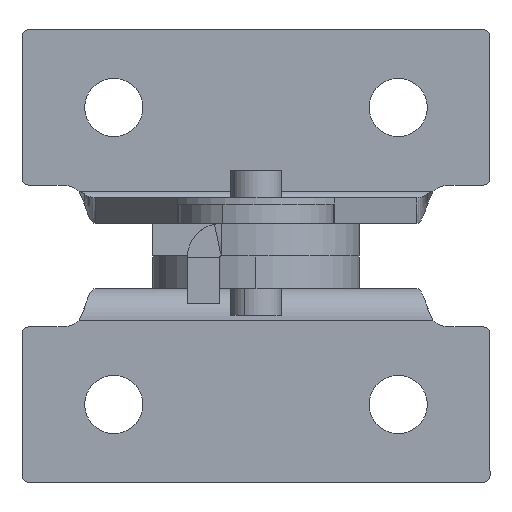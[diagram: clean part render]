
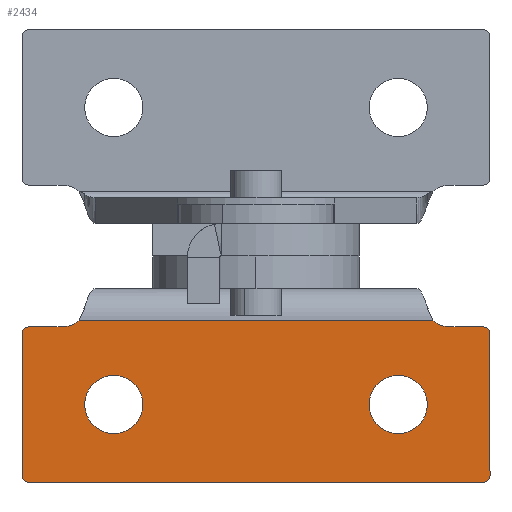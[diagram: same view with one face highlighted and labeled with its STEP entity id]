
A CAD part, left-side view. The second image highlights one B-rep face of the part: STEP entity #2434.
In plain terms, the highlighted planar face has unit normal (-1, 0, 0) as drawn and (0, 0, -1) by its records, which use the part's own axes.
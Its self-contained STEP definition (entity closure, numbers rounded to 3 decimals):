
#6 = CARTESIAN_POINT ( 'NONE',  ( -11., 6., -2. ) ) ;
#17 = DIRECTION ( 'NONE',  ( 0., 0., 1. ) ) ;
#23 = DIRECTION ( 'NONE',  ( 1., 0., 0. ) ) ;
#117 = EDGE_CURVE ( 'NONE', #1892, #1748, #2672, .T. ) ;
#188 = FACE_BOUND ( 'NONE', #1967, .T. ) ;
#191 = ORIENTED_EDGE ( 'NONE', *, *, #2717, .T. ) ;
#231 = CARTESIAN_POINT ( 'NONE',  ( 8.75, 6., -2. ) ) ;
#264 = VERTEX_POINT ( 'NONE', #3108 ) ;
#273 = CARTESIAN_POINT ( 'NONE',  ( -18.1, 12., -2. ) ) ;
#306 = DIRECTION ( 'NONE',  ( 0., -1., 0. ) ) ;
#324 = DIRECTION ( 'NONE',  ( 0., 0., 1. ) ) ;
#346 = ORIENTED_EDGE ( 'NONE', *, *, #2322, .T. ) ;
#382 = DIRECTION ( 'NONE',  ( 1., 0., 0. ) ) ;
#387 = DIRECTION ( 'NONE',  ( 0., 0., -1. ) ) ;
#393 = CARTESIAN_POINT ( 'NONE',  ( 17.6, 0.5, -2. ) ) ;
#399 = LINE ( 'NONE', #2079, #1562 ) ;
#403 = CARTESIAN_POINT ( 'NONE',  ( 15., 14., -2. ) ) ;
#424 = PLANE ( 'NONE',  #1185 ) ;
#432 = DIRECTION ( 'NONE',  ( 1., 0., 0. ) ) ;
#472 = LINE ( 'NONE', #1831, #1796 ) ;
#480 = VERTEX_POINT ( 'NONE', #743 ) ;
#492 = ORIENTED_EDGE ( 'NONE', *, *, #3039, .T. ) ;
#502 = EDGE_CURVE ( 'NONE', #1858, #264, #3114, .T. ) ;
#529 = ORIENTED_EDGE ( 'NONE', *, *, #2845, .T. ) ;
#558 = AXIS2_PLACEMENT_3D ( 'NONE', #1934, #1936, #1950 ) ;
#575 = CARTESIAN_POINT ( 'NONE',  ( -15., 12., -2. ) ) ;
#579 = DIRECTION ( 'NONE',  ( 1., 0., 0. ) ) ;
#581 = DIRECTION ( 'NONE',  ( -1., 0., 0. ) ) ;
#585 = CARTESIAN_POINT ( 'NONE',  ( 18.1, 11.5, -2. ) ) ;
#593 = DIRECTION ( 'NONE',  ( 0., 0., -1. ) ) ;
#633 = CARTESIAN_POINT ( 'NONE',  ( -15., 14., -2. ) ) ;
#641 = VERTEX_POINT ( 'NONE', #1856 ) ;
#646 = VERTEX_POINT ( 'NONE', #2064 ) ;
#657 = LINE ( 'NONE', #273, #1233 ) ;
#659 = ORIENTED_EDGE ( 'NONE', *, *, #117, .F. ) ;
#673 = LINE ( 'NONE', #2574, #1252 ) ;
#674 = VERTEX_POINT ( 'NONE', #2311 ) ;
#701 = ORIENTED_EDGE ( 'NONE', *, *, #2806, .F. ) ;
#714 = CIRCLE ( 'NONE', #2889, 0.5 ) ;
#743 = CARTESIAN_POINT ( 'NONE',  ( 13.25, 6., -2. ) ) ;
#776 = EDGE_CURVE ( 'NONE', #3030, #1243, #673, .T. ) ;
#856 = ORIENTED_EDGE ( 'NONE', *, *, #1969, .F. ) ;
#872 = VERTEX_POINT ( 'NONE', #2761 ) ;
#909 = CARTESIAN_POINT ( 'NONE',  ( 17.6, 0., -2. ) ) ;
#931 = ORIENTED_EDGE ( 'NONE', *, *, #2458, .F. ) ;
#994 = AXIS2_PLACEMENT_3D ( 'NONE', #633, #593, #579 ) ;
#1005 = EDGE_CURVE ( 'NONE', #3030, #1136, #2865, .T. ) ;
#1051 = AXIS2_PLACEMENT_3D ( 'NONE', #2873, #2924, #2946 ) ;
#1066 = AXIS2_PLACEMENT_3D ( 'NONE', #1440, #1437, #1446 ) ;
#1074 = ORIENTED_EDGE ( 'NONE', *, *, #502, .T. ) ;
#1115 = ORIENTED_EDGE ( 'NONE', *, *, #1513, .F. ) ;
#1136 = VERTEX_POINT ( 'NONE', #1189 ) ;
#1158 = ORIENTED_EDGE ( 'NONE', *, *, #1005, .T. ) ;
#1185 = AXIS2_PLACEMENT_3D ( 'NONE', #403, #324, #432 ) ;
#1189 = CARTESIAN_POINT ( 'NONE',  ( -18.1, 0.5, -2. ) ) ;
#1195 = ORIENTED_EDGE ( 'NONE', *, *, #776, .F. ) ;
#1233 = VECTOR ( 'NONE', #306, 1000. ) ;
#1234 = CIRCLE ( 'NONE', #994, 2. ) ;
#1243 = VERTEX_POINT ( 'NONE', #909 ) ;
#1246 = AXIS2_PLACEMENT_3D ( 'NONE', #6, #17, #23 ) ;
#1252 = VECTOR ( 'NONE', #2918, 1000. ) ;
#1255 = LINE ( 'NONE', #575, #2515 ) ;
#1272 = ORIENTED_EDGE ( 'NONE', *, *, #1457, .T. ) ;
#1299 = CARTESIAN_POINT ( 'NONE',  ( 15., 12., -2. ) ) ;
#1313 = ORIENTED_EDGE ( 'NONE', *, *, #2712, .F. ) ;
#1358 = ORIENTED_EDGE ( 'NONE', *, *, #2622, .T. ) ;
#1366 = DIRECTION ( 'NONE',  ( 0., 0., -1. ) ) ;
#1373 = VERTEX_POINT ( 'NONE', #585 ) ;
#1435 = FACE_BOUND ( 'NONE', #2610, .T. ) ;
#1437 = DIRECTION ( 'NONE',  ( 0., 0., -1. ) ) ;
#1440 = CARTESIAN_POINT ( 'NONE',  ( -17.6, 0.5, -2. ) ) ;
#1446 = DIRECTION ( 'NONE',  ( 1., 0., 0. ) ) ;
#1456 = CARTESIAN_POINT ( 'NONE',  ( -17.6, 11.5, -2. ) ) ;
#1457 = EDGE_CURVE ( 'NONE', #2874, #1243, #2030, .T. ) ;
#1468 = DIRECTION ( 'NONE',  ( 1., 0., 0. ) ) ;
#1488 = CARTESIAN_POINT ( 'NONE',  ( -18.1, 11.5, -2. ) ) ;
#1513 = EDGE_CURVE ( 'NONE', #1858, #1136, #657, .T. ) ;
#1514 = ORIENTED_EDGE ( 'NONE', *, *, #1783, .F. ) ;
#1541 = VERTEX_POINT ( 'NONE', #231 ) ;
#1562 = VECTOR ( 'NONE', #2067, 1000. ) ;
#1725 = CIRCLE ( 'NONE', #558, 2.25 ) ;
#1748 = VERTEX_POINT ( 'NONE', #2674 ) ;
#1761 = AXIS2_PLACEMENT_3D ( 'NONE', #1456, #1366, #1468 ) ;
#1775 = LINE ( 'NONE', #2388, #2160 ) ;
#1783 = EDGE_CURVE ( 'NONE', #646, #1892, #1775, .T. ) ;
#1796 = VECTOR ( 'NONE', #1861, 1000. ) ;
#1802 = CARTESIAN_POINT ( 'NONE',  ( -17.6, 0., -2. ) ) ;
#1831 = CARTESIAN_POINT ( 'NONE',  ( 18.1, 0., -2. ) ) ;
#1833 = DIRECTION ( 'NONE',  ( 1., 0., 0. ) ) ;
#1856 = CARTESIAN_POINT ( 'NONE',  ( -15., 12., -2. ) ) ;
#1858 = VERTEX_POINT ( 'NONE', #1488 ) ;
#1861 = DIRECTION ( 'NONE',  ( 0., 1., 0. ) ) ;
#1869 = DIRECTION ( 'NONE',  ( 0., 0., -1. ) ) ;
#1890 = CARTESIAN_POINT ( 'NONE',  ( 17.6, 11.5, -2. ) ) ;
#1892 = VERTEX_POINT ( 'NONE', #1299 ) ;
#1934 = CARTESIAN_POINT ( 'NONE',  ( -11., 6., -2. ) ) ;
#1936 = DIRECTION ( 'NONE',  ( 0., 0., 1. ) ) ;
#1950 = DIRECTION ( 'NONE',  ( 1., 0., 0. ) ) ;
#1967 = EDGE_LOOP ( 'NONE', ( #346, #191 ) ) ;
#1969 = EDGE_CURVE ( 'NONE', #674, #641, #1234, .T. ) ;
#1981 = CARTESIAN_POINT ( 'NONE',  ( -13.25, 6., -2. ) ) ;
#2022 = EDGE_LOOP ( 'NONE', ( #1514, #1358, #1313, #1272, #1195, #1158, #1115, #1074, #931, #856, #701, #659 ) ) ;
#2029 = CARTESIAN_POINT ( 'NONE',  ( 11., 6., -2. ) ) ;
#2030 = CIRCLE ( 'NONE', #3001, 0.5 ) ;
#2040 = DIRECTION ( 'NONE',  ( 0., 0., 1. ) ) ;
#2042 = DIRECTION ( 'NONE',  ( 1., 0., 0. ) ) ;
#2064 = CARTESIAN_POINT ( 'NONE',  ( 17.6, 12., -2. ) ) ;
#2067 = DIRECTION ( 'NONE',  ( -1., 0., 0. ) ) ;
#2079 = CARTESIAN_POINT ( 'NONE',  ( 15., 12.489, -2. ) ) ;
#2131 = FACE_OUTER_BOUND ( 'NONE', #2022, .T. ) ;
#2132 = AXIS2_PLACEMENT_3D ( 'NONE', #2029, #2040, #2042 ) ;
#2160 = VECTOR ( 'NONE', #2399, 1000. ) ;
#2311 = CARTESIAN_POINT ( 'NONE',  ( -13.69, 12.489, -2. ) ) ;
#2322 = EDGE_CURVE ( 'NONE', #872, #2759, #2580, .T. ) ;
#2388 = CARTESIAN_POINT ( 'NONE',  ( 18.1, 12., -2. ) ) ;
#2399 = DIRECTION ( 'NONE',  ( -1., 0., 0. ) ) ;
#2434 = ADVANCED_FACE ( 'NONE', ( #2131, #1435, #188 ), #424, .F. ) ;
#2458 = EDGE_CURVE ( 'NONE', #641, #264, #1255, .T. ) ;
#2515 = VECTOR ( 'NONE', #581, 1000. ) ;
#2554 = CIRCLE ( 'NONE', #2132, 2.25 ) ;
#2574 = CARTESIAN_POINT ( 'NONE',  ( -18.1, 0., -2. ) ) ;
#2580 = CIRCLE ( 'NONE', #1246, 2.25 ) ;
#2610 = EDGE_LOOP ( 'NONE', ( #529, #492 ) ) ;
#2622 = EDGE_CURVE ( 'NONE', #646, #1373, #714, .T. ) ;
#2662 = CARTESIAN_POINT ( 'NONE',  ( 15., 14., -2. ) ) ;
#2666 = DIRECTION ( 'NONE',  ( 0., 0., -1. ) ) ;
#2672 = CIRCLE ( 'NONE', #2757, 2. ) ;
#2674 = CARTESIAN_POINT ( 'NONE',  ( 13.69, 12.489, -2. ) ) ;
#2675 = DIRECTION ( 'NONE',  ( 1., 0., 0. ) ) ;
#2712 = EDGE_CURVE ( 'NONE', #2874, #1373, #472, .T. ) ;
#2717 = EDGE_CURVE ( 'NONE', #2759, #872, #1725, .T. ) ;
#2744 = CIRCLE ( 'NONE', #1051, 2.25 ) ;
#2757 = AXIS2_PLACEMENT_3D ( 'NONE', #2662, #2666, #2675 ) ;
#2759 = VERTEX_POINT ( 'NONE', #1981 ) ;
#2761 = CARTESIAN_POINT ( 'NONE',  ( -8.75, 6., -2. ) ) ;
#2806 = EDGE_CURVE ( 'NONE', #1748, #674, #399, .T. ) ;
#2845 = EDGE_CURVE ( 'NONE', #480, #1541, #2744, .T. ) ;
#2865 = CIRCLE ( 'NONE', #1066, 0.5 ) ;
#2873 = CARTESIAN_POINT ( 'NONE',  ( 11., 6., -2. ) ) ;
#2874 = VERTEX_POINT ( 'NONE', #2957 ) ;
#2889 = AXIS2_PLACEMENT_3D ( 'NONE', #1890, #1869, #1833 ) ;
#2918 = DIRECTION ( 'NONE',  ( 1., 0., 0. ) ) ;
#2924 = DIRECTION ( 'NONE',  ( 0., 0., 1. ) ) ;
#2946 = DIRECTION ( 'NONE',  ( 1., 0., 0. ) ) ;
#2957 = CARTESIAN_POINT ( 'NONE',  ( 18.1, 0.5, -2. ) ) ;
#3001 = AXIS2_PLACEMENT_3D ( 'NONE', #393, #387, #382 ) ;
#3030 = VERTEX_POINT ( 'NONE', #1802 ) ;
#3039 = EDGE_CURVE ( 'NONE', #1541, #480, #2554, .T. ) ;
#3108 = CARTESIAN_POINT ( 'NONE',  ( -17.6, 12., -2. ) ) ;
#3114 = CIRCLE ( 'NONE', #1761, 0.5 ) ;
